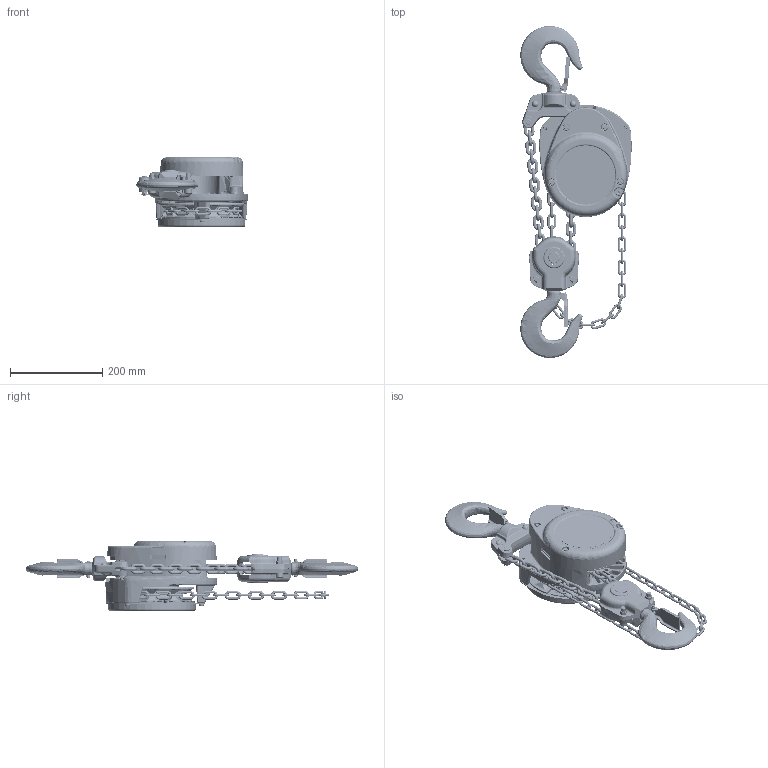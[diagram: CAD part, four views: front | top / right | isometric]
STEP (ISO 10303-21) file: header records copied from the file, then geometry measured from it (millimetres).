
FILE_DESCRIPTION (( 'STEP AP214' ), '1' );
FILE_NAME ('CF030.STEP', '2026-08-13T17:55:31', ( '' ), ( '' ), 'SwSTEP 2.0', 'SolidWorks 2026', '' );
FILE_SCHEMA (( 'AUTOMOTIVE_DESIGN' ));
Length unit declared in the file: inch
Products named in the file (29): CF030; M3021A030; CF001030; M2049010; HCCF005; C1FA015-91052; 9091296_9091296; single coil rectangular section spring washer_bsi_Rectangular section spring washer BS 4464 - 16 (Type B); C3BA030-90312; 9091285_B18.3.1M - 8 x 1.25 x 90 Hex SHCS -- 28CHX; 9009411_9009411; C3BA030-90011; LCCF015NPW_Lower Hook; C1FA015-91021; Load Chain Link ER2W010H; 80350; M3041030; C4FA015-91151; C1FA015-91012; 9098506_9098506; HCCF005 FOR CF030; Socket Head Cap Screw_AM_9091271; CF071030; CF053030; 9091283_B18.3.1M - 8 x 1.25 x 75 Hex SHCS -- 65CHX; C2FA030-901X1_C2FA030-90121; C2FA015-91711; CF187005; C2FA030-901X1_C2FA030-90111
Assembly tree (103 placements, depth 3):
  CF030
    C1FA015-91012
    C1FA015-91021
    C1FA015-91052
    C2FA015-91711
    C4FA015-91151
    M3021A030
      C3BA030-90312  x2
      C3BA030-90011
      CF071030
      9091296_9091296  x2
      9098506_9098506  x2
      CF053030
    CF001030
      C3BA030-90011
      C2FA030-901X1_C2FA030-90111
      C2FA030-901X1_C2FA030-90121
      CF071030
      M3041030
      M2049010
      9009411_9009411
    80350
    9098506_9098506  x4
    9091283_B18.3.1M - 8 x 1.25 x 75 Hex SHCS -- 65CHX  x2
    9091285_B18.3.1M - 8 x 1.25 x 90 Hex SHCS -- 28CHX  x2
    Socket Head Cap Screw_AM_9091271
    single coil rectangular section spring washer_bsi_Rectangular section spring washer BS 4464 - 16 (Type B)  x3
    CF187005  x3
    HCCF005 FOR CF030
      HCCF005  x44
    LCCF015NPW_Lower Hook  x2
      Load Chain Link ER2W010H
Bounding box: 240.97 x 718.69 x 151.7 mm (x, y, z)
Volume: 2497245.5 mm3; surface area: 941920.7 mm2
Topology: 115 solids, 115 shells, 6410 faces, 15624 edges, 9108 vertices
Faces by surface type: torus 1871, cylinder 1294, bspline 1129, plane 1036, cone 1035, sphere 45
Entity records: 241018 total; most frequent: CARTESIAN_POINT 127031, ORIENTED_EDGE 24568, DIRECTION 23184, EDGE_CURVE 12284, AXIS2_PLACEMENT_3D 10011, VERTEX_POINT 7281, CIRCLE 5864, EDGE_LOOP 5289
